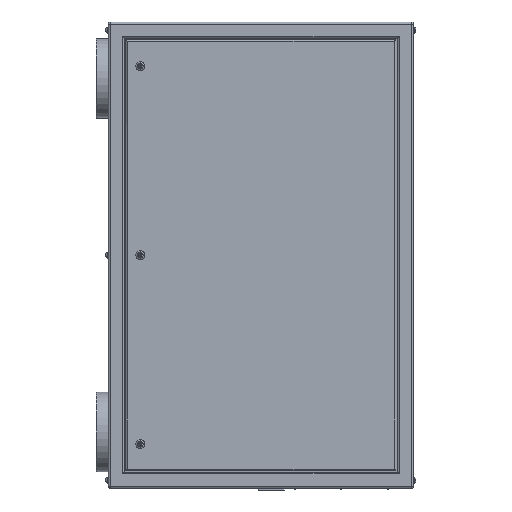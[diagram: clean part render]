
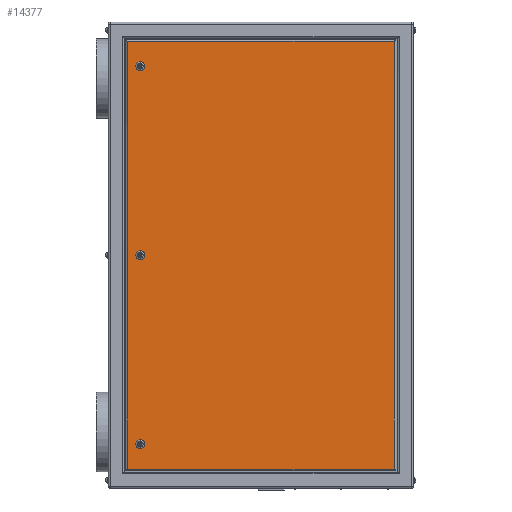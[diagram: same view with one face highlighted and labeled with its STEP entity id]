
A CAD part, left-side view. The second image highlights one B-rep face of the part: STEP entity #14377.
In plain terms, the highlighted planar face has unit normal (-1, 0, 0).
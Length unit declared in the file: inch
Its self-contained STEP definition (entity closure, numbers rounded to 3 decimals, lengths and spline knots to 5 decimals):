
#52 = AXIS2_PLACEMENT_3D ( 'NONE', #13632, #10910, #2310 ) ;
#286 = ORIENTED_EDGE ( 'NONE', *, *, #1810, .T. ) ;
#503 = EDGE_LOOP ( 'NONE', ( #6556, #6362 ) ) ;
#516 = CARTESIAN_POINT ( 'NONE',  ( -13., -16.6, -29. ) ) ;
#708 = CARTESIAN_POINT ( 'NONE',  ( -13., 19., -29. ) ) ;
#729 = DIRECTION ( 'NONE',  ( 1., 0., 0. ) ) ;
#1506 = DIRECTION ( 'NONE',  ( 0., 0., -1. ) ) ;
#1582 = DIRECTION ( 'NONE',  ( 1., 0., 0. ) ) ;
#1610 = CIRCLE ( 'NONE', #15077, 0.55 ) ;
#1703 = DIRECTION ( 'NONE',  ( 0., 0., 1. ) ) ;
#1810 = EDGE_CURVE ( 'NONE', #5390, #7172, #5068, .T. ) ;
#1870 = DIRECTION ( 'NONE',  ( 0., 0., -1. ) ) ;
#2310 = DIRECTION ( 'NONE',  ( 0., 0., -1. ) ) ;
#2388 = DIRECTION ( 'NONE',  ( 0., 1., 0. ) ) ;
#2558 = VERTEX_POINT ( 'NONE', #11960 ) ;
#2792 = LINE ( 'NONE', #516, #15622 ) ;
#2808 = CARTESIAN_POINT ( 'NONE',  ( -13., 19., -26.6 ) ) ;
#3038 = PLANE ( 'NONE',  #5638 ) ;
#3397 = DIRECTION ( 'NONE',  ( 0., 0., -1. ) ) ;
#3543 = CARTESIAN_POINT ( 'NONE',  ( -13., -16.6, 26.6 ) ) ;
#3633 = DIRECTION ( 'NONE',  ( 0., 0., -1. ) ) ;
#3988 = CIRCLE ( 'NONE', #6888, 0.55 ) ;
#4105 = CARTESIAN_POINT ( 'NONE',  ( -13., -16.6, -26.6 ) ) ;
#4139 = DIRECTION ( 'NONE',  ( 0., -1., 0. ) ) ;
#4301 = DIRECTION ( 'NONE',  ( 1., 0., 0. ) ) ;
#4306 = FACE_BOUND ( 'NONE', #503, .T. ) ;
#4355 = VERTEX_POINT ( 'NONE', #7043 ) ;
#4914 = VECTOR ( 'NONE', #12238, 39.37008 ) ;
#5039 = VERTEX_POINT ( 'NONE', #8759 ) ;
#5068 = LINE ( 'NONE', #13966, #7000 ) ;
#5299 = LINE ( 'NONE', #2808, #11879 ) ;
#5368 = EDGE_LOOP ( 'NONE', ( #15892, #13971 ) ) ;
#5390 = VERTEX_POINT ( 'NONE', #3543 ) ;
#5547 = FACE_BOUND ( 'NONE', #12609, .T. ) ;
#5638 = AXIS2_PLACEMENT_3D ( 'NONE', #708, #16186, #5955 ) ;
#5817 = AXIS2_PLACEMENT_3D ( 'NONE', #10510, #4301, #1870 ) ;
#5955 = DIRECTION ( 'NONE',  ( 0., 0., -1. ) ) ;
#6362 = ORIENTED_EDGE ( 'NONE', *, *, #13359, .T. ) ;
#6427 = AXIS2_PLACEMENT_3D ( 'NONE', #14481, #729, #13214 ) ;
#6510 = CARTESIAN_POINT ( 'NONE',  ( -13., 15., -0.55 ) ) ;
#6556 = ORIENTED_EDGE ( 'NONE', *, *, #10658, .T. ) ;
#6807 = CIRCLE ( 'NONE', #9684, 0.55 ) ;
#6888 = AXIS2_PLACEMENT_3D ( 'NONE', #12815, #1582, #1506 ) ;
#7000 = VECTOR ( 'NONE', #2388, 39.37008 ) ;
#7043 = CARTESIAN_POINT ( 'NONE',  ( -13., 16.6, -26.6 ) ) ;
#7086 = EDGE_CURVE ( 'NONE', #7172, #4355, #13893, .T. ) ;
#7172 = VERTEX_POINT ( 'NONE', #15723 ) ;
#7194 = CARTESIAN_POINT ( 'NONE',  ( -13., 15., -23.5 ) ) ;
#7235 = CARTESIAN_POINT ( 'NONE',  ( -13., 16.6, -29. ) ) ;
#7906 = CARTESIAN_POINT ( 'NONE',  ( -13., 15., -24.05 ) ) ;
#8035 = ORIENTED_EDGE ( 'NONE', *, *, #11184, .T. ) ;
#8555 = ORIENTED_EDGE ( 'NONE', *, *, #9029, .T. ) ;
#8759 = CARTESIAN_POINT ( 'NONE',  ( -13., 15., -22.95 ) ) ;
#9029 = EDGE_CURVE ( 'NONE', #5039, #15382, #6807, .T. ) ;
#9354 = FACE_OUTER_BOUND ( 'NONE', #15720, .T. ) ;
#9586 = DIRECTION ( 'NONE',  ( 1., 0., 0. ) ) ;
#9684 = AXIS2_PLACEMENT_3D ( 'NONE', #11162, #14795, #3397 ) ;
#9855 = CIRCLE ( 'NONE', #6427, 0.55 ) ;
#9967 = VERTEX_POINT ( 'NONE', #14568 ) ;
#10104 = VERTEX_POINT ( 'NONE', #11420 ) ;
#10421 = CIRCLE ( 'NONE', #52, 0.55 ) ;
#10510 = CARTESIAN_POINT ( 'NONE',  ( -13., 15., 0. ) ) ;
#10590 = FACE_BOUND ( 'NONE', #5368, .T. ) ;
#10601 = ORIENTED_EDGE ( 'NONE', *, *, #12110, .T. ) ;
#10658 = EDGE_CURVE ( 'NONE', #9967, #2558, #3988, .T. ) ;
#10910 = DIRECTION ( 'NONE',  ( 1., 0., 0. ) ) ;
#11162 = CARTESIAN_POINT ( 'NONE',  ( -13., 15., -23.5 ) ) ;
#11184 = EDGE_CURVE ( 'NONE', #15382, #5039, #1610, .T. ) ;
#11420 = CARTESIAN_POINT ( 'NONE',  ( -13., 15., 0.55 ) ) ;
#11879 = VECTOR ( 'NONE', #4139, 39.37008 ) ;
#11960 = CARTESIAN_POINT ( 'NONE',  ( -13., 15., 24.05 ) ) ;
#12109 = CIRCLE ( 'NONE', #5817, 0.55 ) ;
#12110 = EDGE_CURVE ( 'NONE', #4355, #12639, #5299, .T. ) ;
#12238 = DIRECTION ( 'NONE',  ( 0., 0., -1. ) ) ;
#12609 = EDGE_LOOP ( 'NONE', ( #8035, #8555 ) ) ;
#12639 = VERTEX_POINT ( 'NONE', #4105 ) ;
#12815 = CARTESIAN_POINT ( 'NONE',  ( -13., 15., 23.5 ) ) ;
#13214 = DIRECTION ( 'NONE',  ( 0., 0., -1. ) ) ;
#13359 = EDGE_CURVE ( 'NONE', #2558, #9967, #10421, .T. ) ;
#13549 = EDGE_CURVE ( 'NONE', #14040, #10104, #12109, .T. ) ;
#13632 = CARTESIAN_POINT ( 'NONE',  ( -13., 15., 23.5 ) ) ;
#13807 = EDGE_CURVE ( 'NONE', #12639, #5390, #2792, .T. ) ;
#13893 = LINE ( 'NONE', #7235, #4914 ) ;
#13966 = CARTESIAN_POINT ( 'NONE',  ( -13., 19., 26.6 ) ) ;
#13971 = ORIENTED_EDGE ( 'NONE', *, *, #15138, .T. ) ;
#14040 = VERTEX_POINT ( 'NONE', #6510 ) ;
#14377 = ADVANCED_FACE ( 'NONE', ( #5547, #10590, #4306, #9354 ), #3038, .F. ) ;
#14481 = CARTESIAN_POINT ( 'NONE',  ( -13., 15., 0. ) ) ;
#14568 = CARTESIAN_POINT ( 'NONE',  ( -13., 15., 22.95 ) ) ;
#14795 = DIRECTION ( 'NONE',  ( 1., 0., 0. ) ) ;
#14927 = ORIENTED_EDGE ( 'NONE', *, *, #13807, .T. ) ;
#15077 = AXIS2_PLACEMENT_3D ( 'NONE', #7194, #9586, #3633 ) ;
#15128 = ORIENTED_EDGE ( 'NONE', *, *, #7086, .T. ) ;
#15138 = EDGE_CURVE ( 'NONE', #10104, #14040, #9855, .T. ) ;
#15382 = VERTEX_POINT ( 'NONE', #7906 ) ;
#15622 = VECTOR ( 'NONE', #1703, 39.37008 ) ;
#15720 = EDGE_LOOP ( 'NONE', ( #10601, #14927, #286, #15128 ) ) ;
#15723 = CARTESIAN_POINT ( 'NONE',  ( -13., 16.6, 26.6 ) ) ;
#15892 = ORIENTED_EDGE ( 'NONE', *, *, #13549, .T. ) ;
#16186 = DIRECTION ( 'NONE',  ( 1., 0., 0. ) ) ;
